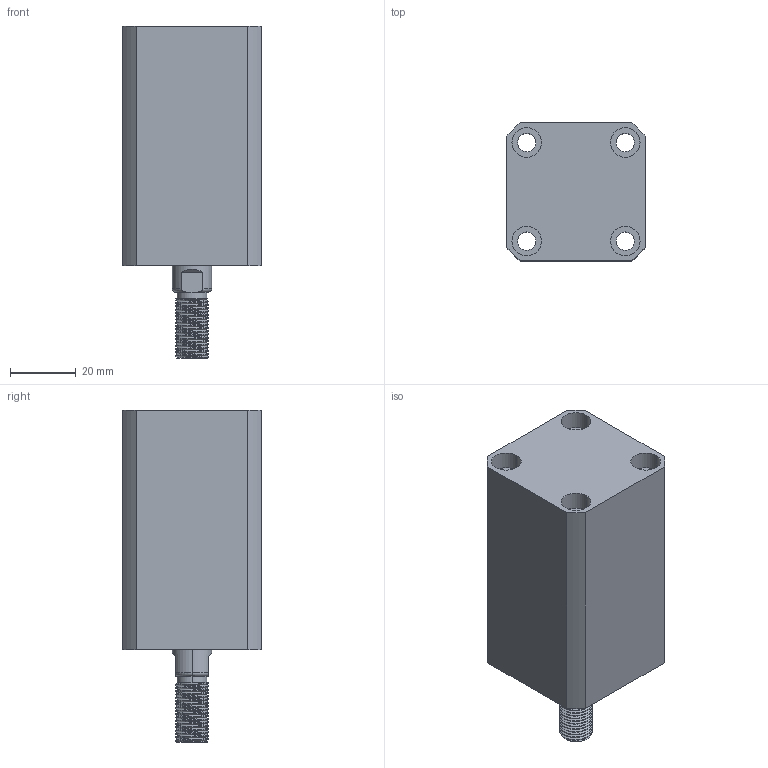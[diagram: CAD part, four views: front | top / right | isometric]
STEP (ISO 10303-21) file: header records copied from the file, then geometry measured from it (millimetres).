
FILE_DESCRIPTION (( 'STEP AP214' ), '1' );
FILE_NAME ('chtb-sd20x30w_asm.STEP', '2018-05-16T09:25:59', ( 'Windows' ), ( 'Microsoft' ), 'SwSTEP 2.0', 'SolidWorks 2015', '' );
FILE_SCHEMA (( 'AUTOMOTIVE_DESIGN' ));
Length unit declared in the file: millimetre
Products named in the file (4): QG; CHTB-SD20X30WHSG; CHTB-SD20X30NBT; chtb-sd20x30w_asm
Assembly tree (3 placements, depth 2):
  chtb-sd20x30w_asm
    CHTB-SD20X30NBT
    CHTB-SD20X30WHSG
    QG
Bounding box: 42 x 42 x 101 mm (x, y, z)
Volume: 110985.9 mm3; surface area: 35170.3 mm2
Topology: 3 solids, 3 shells, 234 faces, 624 edges, 415 vertices
Faces by surface type: cylinder 139, plane 40, torus 25, bspline 21, cone 9
Entity records: 13734 total; most frequent: CARTESIAN_POINT 8172, ORIENTED_EDGE 1240, DIRECTION 1039, EDGE_CURVE 620, AXIS2_PLACEMENT_3D 431, VERTEX_POINT 415, EDGE_LOOP 271, ADVANCED_FACE 234
